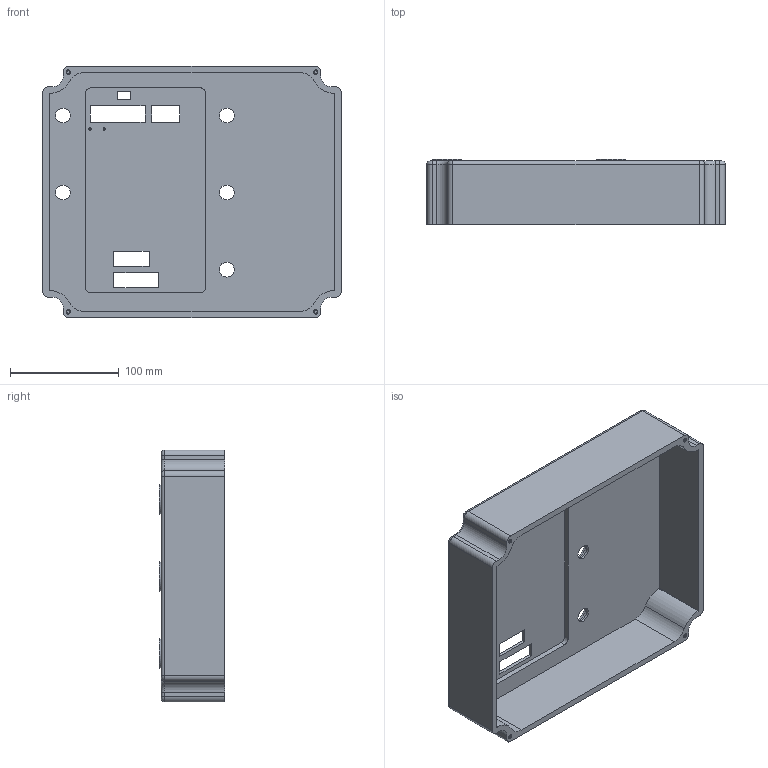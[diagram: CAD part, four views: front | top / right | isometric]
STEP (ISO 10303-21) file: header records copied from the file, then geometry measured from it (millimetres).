
FILE_DESCRIPTION (( 'STEP AP214' ), '1' );
FILE_NAME ('250500 俋褲.STEP', '2022-10-19T07:26:37', ( '' ), ( '' ), 'SwSTEP 2.0', 'SolidWorks 2018', '' );
FILE_SCHEMA (( 'AUTOMOTIVE_DESIGN' ));
Length unit declared in the file: millimetre
Products named in the file (1): 250500 俋褲
Bounding box: 275 x 60.2 x 232 mm (x, y, z)
Volume: 655335.7 mm3; surface area: 229845.9 mm2
Topology: 1 solids, 1 shells, 172 faces, 418 edges, 268 vertices
Faces by surface type: cylinder 90, plane 62, torus 12, cone 8
Entity records: 5168 total; most frequent: DIRECTION 964, CARTESIAN_POINT 859, ORIENTED_EDGE 836, EDGE_CURVE 418, AXIS2_PLACEMENT_3D 373, VERTEX_POINT 268, LINE 218, VECTOR 218
